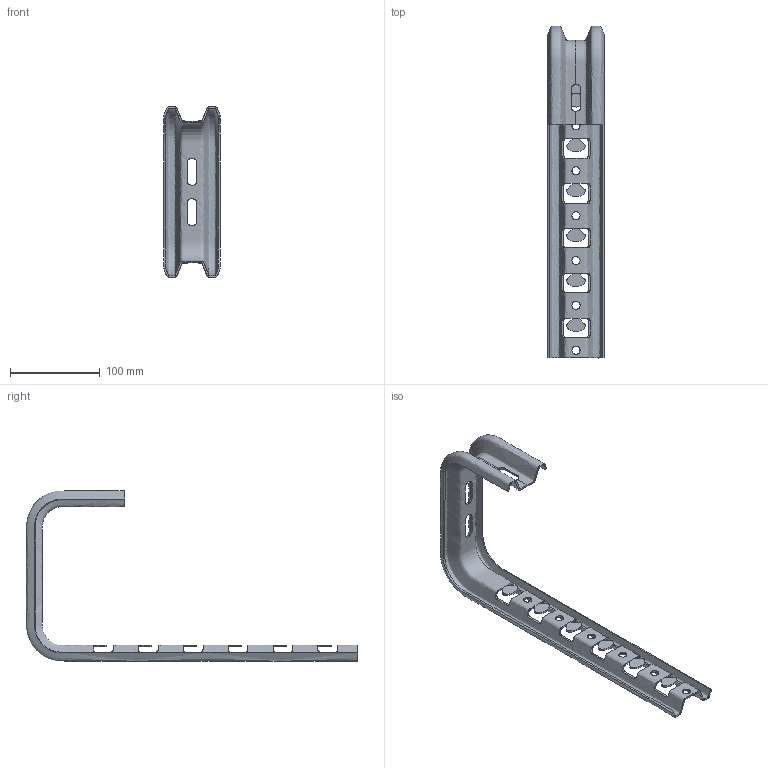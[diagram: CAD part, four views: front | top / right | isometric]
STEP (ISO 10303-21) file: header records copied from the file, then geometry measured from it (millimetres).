
FILE_DESCRIPTION(/* description */ (''),/* implementation_level */ '2;1');
FILE_NAME(/* name */ 'NZMC300',/* time_stamp */ '2012-11-29T22:28:58+01:00',/* author */ (''),/* organization */ (''),/* preprocessor_version */ 'ST-DEVELOPER v10',/* originating_system */ '',/* authorisation */ '');
FILE_SCHEMA (('AUTOMOTIVE_DESIGN_CC2'));
Length unit declared in the file: millimetre
Products named in the file (1): 1
Bounding box: 62.44 x 369.52 x 190.04 mm (x, y, z)
Surface area: 107156.7 mm2 (no closed solid volume)
Topology: 0 solids, 71 shells, 77 faces, 492 edges, 480 vertices
Faces by surface type: bspline 53, plane 24
Entity records: 26320 total; most frequent: CARTESIAN_POINT 23390, ORIENTED_EDGE 504, EDGE_CURVE 492, VERTEX_POINT 480, B_SPLINE_CURVE_WITH_KNOTS 374, EDGE_LOOP 96, ADVANCED_FACE 77, FACE_OUTER_BOUND 77
